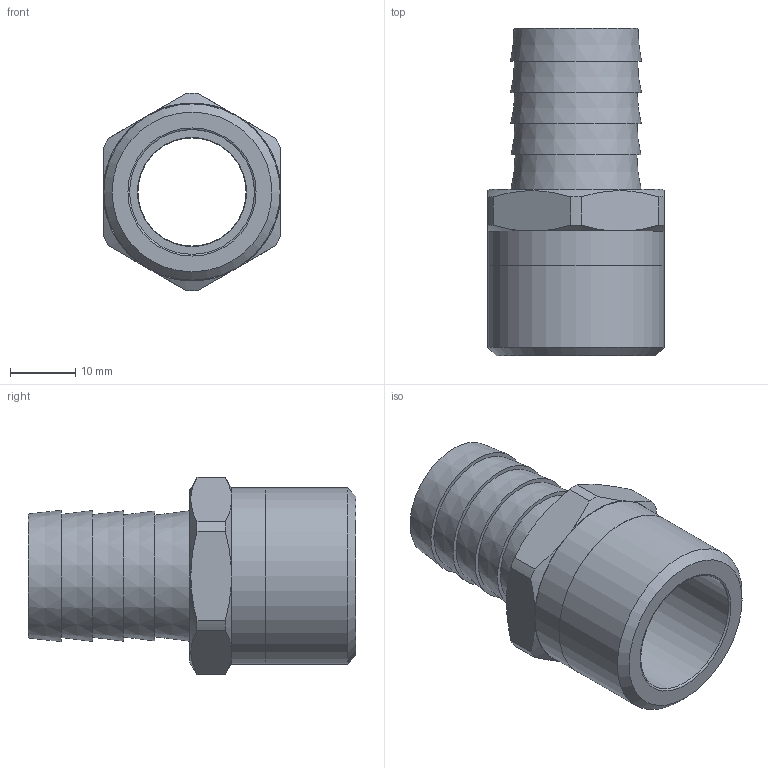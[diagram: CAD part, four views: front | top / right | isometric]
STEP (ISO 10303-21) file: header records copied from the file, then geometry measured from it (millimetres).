
FILE_DESCRIPTION(/* description */ (''),/* implementation_level */ '2;1');
FILE_NAME(/* name */ 'C:/Users/drich/Desktop/MB75-12 v1.step',/* time_stamp */ '2020-02-02T14:56:17-06:00',/* author */ (''),/* organization */ (''),/* preprocessor_version */ 'ST-DEVELOPER v18',/* originating_system */ 'Autodesk Translation Framework v8.12.0.6',/* authorisation */ '');
FILE_SCHEMA (('AUTOMOTIVE_DESIGN { 1 0 10303 214 3 1 1 }'));
Length unit declared in the file: inch
Products named in the file (2): MB75-12; 75 BARB ONLY
Assembly tree (1 placements, depth 2):
  MB75-12
    75 BARB ONLY
Bounding box: 26.97 x 50.04 x 30.22 mm (x, y, z)
Volume: 9872.9 mm3; surface area: 7448.9 mm2
Topology: 2 solids, 2 shells, 48 faces, 126 edges, 87 vertices
Faces by surface type: plane 21, cone 15, cylinder 11, torus 1
Full cylindrical faces by diameter (mm): 16.51 x1, 16.662 x1, 19.05 x1, 26.924 x1, 26.975 x1
Entity records: 1585 total; most frequent: CARTESIAN_POINT 300, DIRECTION 280, ORIENTED_EDGE 252, EDGE_CURVE 126, AXIS2_PLACEMENT_3D 121, VERTEX_POINT 87, CIRCLE 70, EDGE_LOOP 57
